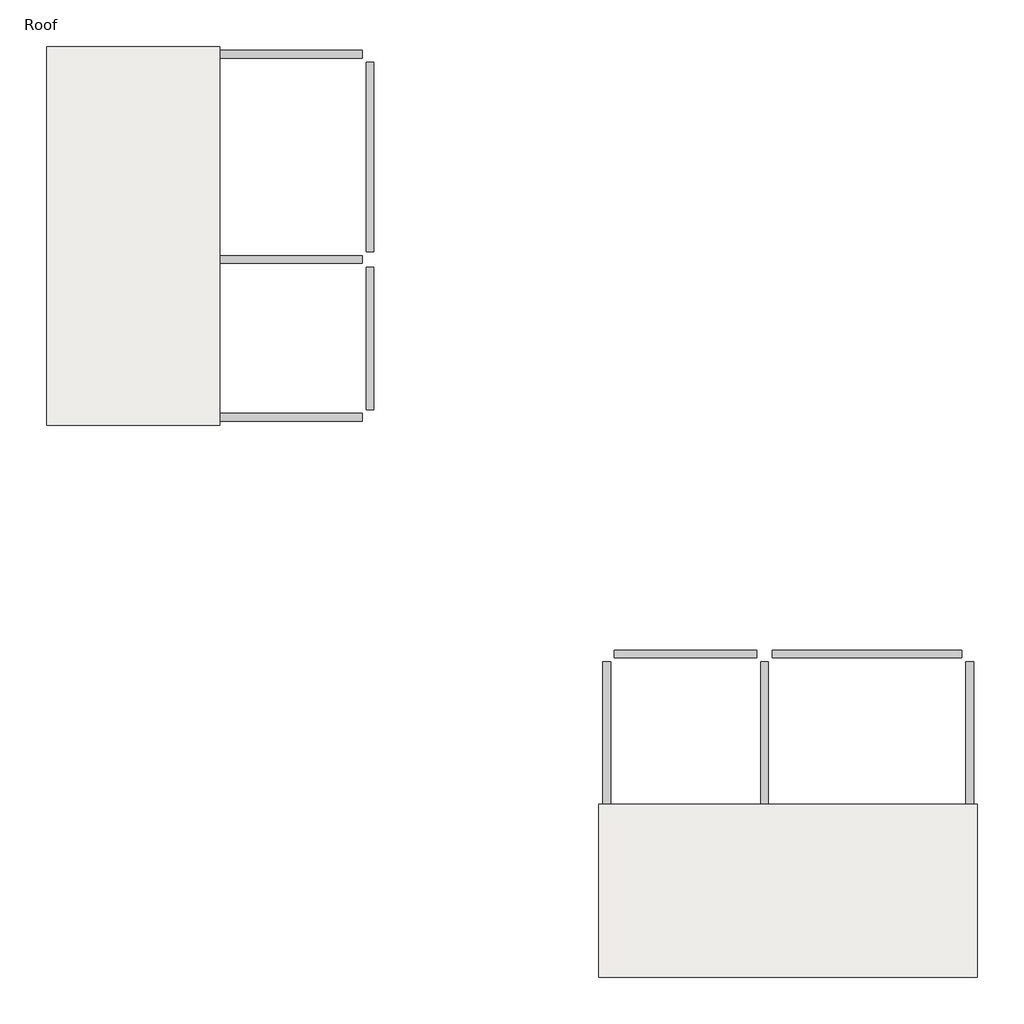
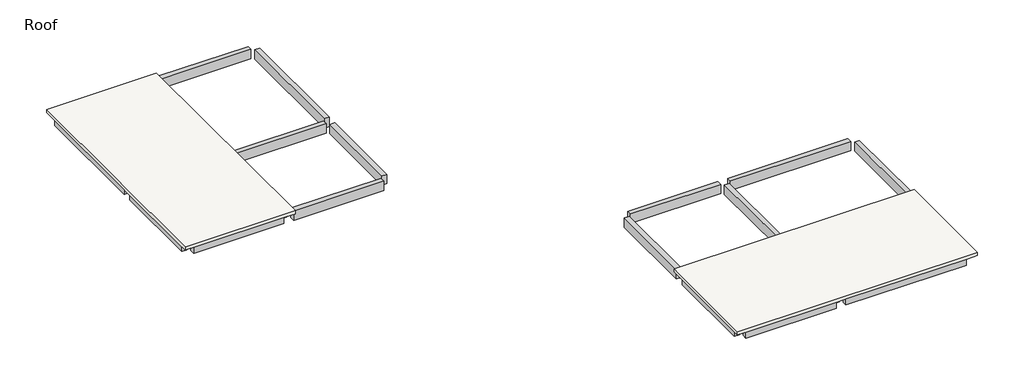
# One storey: 24 beams, 2 slabs.
"""IFC4 building model written with IfcOpenShell, lengths in millimetres."""

import ifcopenshell
import ifcopenshell.guid

model = None  # the IFC model being written
_history = None  # IfcOwnerHistory: only IFC2X3 demands one
_inside = {}  # id of a spatial element -> (the spatial element, [elements in it])
_under = {}  # id of a project, library or spatial element -> (it, [spatial elements below it])
_declared = {}  # id of a project -> (the project, [libraries it declares])
_typed = {}  # id of a type object -> (the type object, [elements of that type])
_made_of = {}  # id of a material, layer set ... -> (it, [elements and type objects made of it])


def new_model(schema):
    """Start an empty IFC model of exactly this schema.

    Asked for "IFC4X3", IfcOpenShell would pick the latest addendum, in which some entities
    have other attributes; the version numbers below select the first issue.
    IFC2X3 requires an IfcOwnerHistory on every rooted entity: one is made here for all.
    """
    global model, _history
    if schema == "IFC4X3":
        model = ifcopenshell.file(schema_version=(4, 3, 0, 0))
    else:
        model = ifcopenshell.file(schema=schema)
    _inside.clear()
    _under.clear()
    _declared.clear()
    _typed.clear()
    _made_of.clear()
    _history = None
    if model.schema == "IFC2X3":
        org = make("IfcOrganization", Name="unknown")
        user = make(
            "IfcPersonAndOrganization",
            ThePerson=make("IfcPerson", FamilyName="unknown"),
            TheOrganization=org,
        )
        app = make(
            "IfcApplication",
            ApplicationDeveloper=org,
            Version="unknown",
            ApplicationFullName="unknown",
            ApplicationIdentifier="unknown",
        )
        _history = make(
            "IfcOwnerHistory",
            OwningUser=user,
            OwningApplication=app,
            ChangeAction="ADDED",
            CreationDate=0,
        )
    return model


def make(cls, **values):
    """One entity of the class cls with the attributes given. An attribute that is None is left unset."""
    return model.create_entity(
        cls, **{name: value for name, value in values.items() if value is not None}
    )


def rooted(cls, **values):
    """An entity with a GlobalId (a new one), such as an element, a storey or a relation."""
    return make(cls, GlobalId=ifcopenshell.guid.new(), OwnerHistory=_history, **values)


def si_unit(unit_type, name, prefix=None):
    """IfcSIUnit, for example si_unit("LENGTHUNIT", "METRE", prefix="MILLI")."""
    return make("IfcSIUnit", UnitType=unit_type, Prefix=prefix, Name=name)


def assignment(units):
    """IfcUnitAssignment: the units of a project."""
    return None if units is None else make("IfcUnitAssignment", Units=units)


def point(xyz):
    """IfcCartesianPoint."""
    return None if xyz is None else make("IfcCartesianPoint", Coordinates=xyz)


def direction(xyz):
    """IfcDirection."""
    return None if xyz is None else make("IfcDirection", DirectionRatios=xyz)


def frame(location, z_axis=None, x_axis=None):
    """IfcAxis2Placement3D, a coordinate frame: its origin and axes. An axis left out is left unset."""
    return make(
        "IfcAxis2Placement3D",
        Location=point(location),
        Axis=direction(z_axis),
        RefDirection=direction(x_axis),
    )


def origin():
    """The frame at (0, 0, 0) with its axes left unset."""
    return frame((0.0, 0.0, 0.0))


def place(relative_to, where):
    """IfcLocalPlacement: puts the frame where relative to a parent placement (None: the world)."""
    return make(
        "IfcLocalPlacement", PlacementRelTo=relative_to, RelativePlacement=where
    )


def context(
    kind, dimensions, precision=None, world=None, true_north=None, identifier=None
):
    """IfcGeometricRepresentationContext, for example the 3D "Model" context."""
    return make(
        "IfcGeometricRepresentationContext",
        ContextIdentifier=identifier,
        ContextType=kind,
        CoordinateSpaceDimension=dimensions,
        Precision=precision,
        WorldCoordinateSystem=world,
        TrueNorth=true_north,
    )


def project(units=None, contexts=None):
    """IfcProject with its units and contexts."""
    return rooted(
        "IfcProject",
        Name="project",
        RepresentationContexts=contexts,
        UnitsInContext=assignment(units),
    )


def spatial(cls, under=None, at=None, **own):
    """A site, building, storey or space (cls), placed at a placement, below another one or the project."""
    s = rooted(cls, ObjectPlacement=at, **own)
    if under is not None:
        _under.setdefault(under.id(), (under, []))[1].append(s)
    return s


def polyline(points):
    """IfcPolyline through the points."""
    return make("IfcPolyline", Points=[point(p) for p in points])


def outline(outer, holes=None, kind="AREA"):
    """IfcArbitraryClosedProfileDef: a profile drawn as a closed curve; with holes, ...WithVoids."""
    if holes is None:
        return make("IfcArbitraryClosedProfileDef", ProfileType=kind, OuterCurve=outer)
    return make(
        "IfcArbitraryProfileDefWithVoids",
        ProfileType=kind,
        OuterCurve=outer,
        InnerCurves=holes,
    )


def extrude(swept, where, along, depth):
    """IfcExtrudedAreaSolid: the profile swept, set in the frame where, extruded along a direction by depth."""
    return make(
        "IfcExtrudedAreaSolid",
        SweptArea=swept,
        Position=where,
        ExtrudedDirection=direction(along),
        Depth=depth,
    )


def faces_of(points, faces, orient=None, outer=None):
    """IfcFace entities. A face is a list of loops; a loop is a list of indices into points, from 0.

    orient and outer hold one flag for each loop. By default every Orientation is true, the
    first loop of a face is its IfcFaceOuterBound and the others are IfcFaceBound.
    """
    made = []
    for i, loops in enumerate(faces):
        bounds = []
        for j, loop in enumerate(loops):
            is_outer = j == 0 if outer is None else outer[i][j]
            bounds.append(
                make(
                    "IfcFaceOuterBound" if is_outer else "IfcFaceBound",
                    Bound=make("IfcPolyLoop", Polygon=[points[k] for k in loop]),
                    Orientation=True if orient is None else orient[i][j],
                )
            )
        made.append(make("IfcFace", Bounds=bounds))
    return made


def faceted_brep(points, faces, orient=None, outer=None, voids=None):
    """IfcFacetedBrep: a solid bounded by flat faces; with voids (closed shells), ...WithVoids."""
    shared = [point(p) for p in points]
    hull = make("IfcClosedShell", CfsFaces=faces_of(shared, faces, orient, outer))
    if voids is None:
        return make("IfcFacetedBrep", Outer=hull)
    return make(
        "IfcFacetedBrepWithVoids",
        Outer=hull,
        Voids=[
            make(cls, CfsFaces=faces_of(shared, fs, o, b)) for cls, fs, o, b in voids
        ],
    )


def shape(context_of_items, identifier, shape_type, items):
    """IfcShapeRepresentation: the items that make up one representation, for example the "Body"."""
    return make(
        "IfcShapeRepresentation",
        ContextOfItems=context_of_items,
        RepresentationIdentifier=identifier,
        RepresentationType=shape_type,
        Items=items,
    )


def made_of(thing, what):
    """Note that an element or type object is made of a material, layer set ...; save() writes the relation."""
    if what is not None:
        _made_of.setdefault(what.id(), (what, []))[1].append(thing)
    return thing


def element(
    cls,
    number,
    at=None,
    inside=None,
    cuts=None,
    type_object=None,
    material=None,
    context=None,
    identifier="Body",
    shape_type=None,
    held_by="IfcProductDefinitionShape",
    body=None,
    shapes=None,
    **own,
):
    """One element of the class cls, such as IfcWall. Its Tag is "e" and its number.

    at: its placement. inside: the storey or other place that contains it. cuts: it is an
    opening in that element (IfcRelVoidsElement). A single representation is given by context,
    identifier, shape_type and body (its items); several are given by shapes. held_by: the class
    of the entity that holds the representations. save() writes the other relations.
    """
    e = rooted(cls, Tag="e%d" % number, ObjectPlacement=at, **own)
    if body is not None:
        shapes = [shape(context, identifier, shape_type, body)]
    if shapes is not None:
        e.Representation = make(held_by, Representations=shapes)
    if inside is not None:
        _inside.setdefault(inside.id(), (inside, []))[1].append(e)
    if cuts is not None:
        rooted(
            "IfcRelVoidsElement", RelatingBuildingElement=cuts, RelatedOpeningElement=e
        )
    if type_object is not None:
        _typed.setdefault(type_object.id(), (type_object, []))[1].append(e)
    return made_of(e, material)


def aggregate(whole, parts):
    """IfcRelAggregates: a whole, such as a stair, and the parts it consists of."""
    return rooted("IfcRelAggregates", RelatingObject=whole, RelatedObjects=parts)


def save(model, path):
    """Write the relations noted so far, then the file.

    IfcRelAggregates (storeys below a building ...), IfcRelContainedInSpatialStructure (elements
    in a storey), IfcRelDefinesByType, IfcRelAssociatesMaterial and IfcRelDeclares: one each for
    every whole, place, type object, material and project.
    """
    for whole, parts in _under.values():
        aggregate(whole, parts)
    for where, things in _inside.values():
        rooted(
            "IfcRelContainedInSpatialStructure",
            RelatedElements=things,
            RelatingStructure=where,
        )
    for kind, things in _typed.values():
        rooted("IfcRelDefinesByType", RelatedObjects=things, RelatingType=kind)
    for what, things in _made_of.values():
        rooted("IfcRelAssociatesMaterial", RelatedObjects=things, RelatingMaterial=what)
    for by, libraries in _declared.values():
        rooted("IfcRelDeclares", RelatingContext=by, RelatedDefinitions=libraries)
    model.write(path)


model = new_model("IFC4")

# Units and contexts
model_context = context("Model", 3, world=origin())
ifc_project = project(units=[si_unit("LENGTHUNIT", "METRE", prefix="MILLI")], contexts=[model_context])

# Site, building, storey
site = spatial("IfcSite", under=ifc_project)
building = spatial("IfcBuilding", under=site)
storey = spatial("IfcBuildingStorey", under=building, Name="Roof", Elevation=7315.2)

# Beams
placement = place(None, origin())
element("IfcBeam", 1, ObjectType="M_Concrete-Rectangular Beam : 300 x 600mm", at=placement, inside=storey, context=model_context, shape_type="SweptSolid", body=[
    extrude(outline(polyline([(-14241.0467956, 11398.6404637), (-14241.0467956, 11098.6404637), (-19737.0467956, 11098.6404637), (-19737.0467956, 11398.6404637), (-14241.0467956, 11398.6404637)])), frame((0.0, 0.0, 6715.2), z_axis=(0.0, 0.0, 1.0), x_axis=(1.0, 0.0, 0.0)), (0.0, 0.0, 1.0), 600.0),
])
element("IfcBeam", 2, ObjectType="M_Concrete-Rectangular Beam : 300 x 600mm", at=placement, inside=storey, context=model_context, shape_type="SweptSolid", body=[
    extrude(outline(polyline([(-20337.0467956, 11398.6404637), (-20337.0467956, 11098.6404637), (-25833.0467956, 11098.6404637), (-25833.0467956, 11398.6404637), (-20337.0467956, 11398.6404637)])), frame((0.0, 0.0, 6715.2), z_axis=(0.0, 0.0, 1.0), x_axis=(1.0, 0.0, 0.0)), (0.0, 0.0, 1.0), 510.0),
])
element("IfcBeam", 3, ObjectType="M_Concrete-Rectangular Beam : 300 x 600mm", at=placement, inside=storey, context=model_context, shape_type="SweptSolid", body=[
    extrude(outline(polyline([(-14241.0467956, 3473.6404637), (-14241.0467956, 3173.6404637), (-19737.0467956, 3173.6404637), (-19737.0467956, 3473.6404637), (-14241.0467956, 3473.6404637)])), frame((0.0, 0.0, 6715.2), z_axis=(0.0, 0.0, 1.0), x_axis=(1.0, 0.0, 0.0)), (0.0, 0.0, 1.0), 600.0),
])
element("IfcBeam", 4, ObjectType="M_Concrete-Rectangular Beam : 300 x 600mm", at=placement, inside=storey, context=model_context, shape_type="SweptSolid", body=[
    extrude(outline(polyline([(-20337.0467956, 3473.6404637), (-20337.0467956, 3173.6404637), (-25833.0467956, 3173.6404637), (-25833.0467956, 3473.6404637), (-20337.0467956, 3473.6404637)])), frame((0.0, 0.0, 6715.2), z_axis=(0.0, 0.0, 1.0), x_axis=(1.0, 0.0, 0.0)), (0.0, 0.0, 1.0), 510.0),
])
element("IfcBeam", 5, ObjectType="M_Concrete-Rectangular Beam : 300 x 600mm", at=placement, inside=storey, context=model_context, shape_type="SweptSolid", body=[
    extrude(outline(polyline([(-14241.0467956, -2622.3595363), (-14241.0467956, -2922.3595363), (-19737.0467956, -2922.3595363), (-19737.0467956, -2622.3595363), (-14241.0467956, -2622.3595363)])), frame((0.0, 0.0, 6715.2), z_axis=(0.0, 0.0, 1.0), x_axis=(1.0, 0.0, 0.0)), (0.0, 0.0, 1.0), 600.0),
])
element("IfcBeam", 6, ObjectType="M_Concrete-Rectangular Beam : 300 x 600mm", at=placement, inside=storey, context=model_context, shape_type="SweptSolid", body=[
    extrude(outline(polyline([(-20337.0467956, -2622.3595363), (-20337.0467956, -2922.3595363), (-25833.0467956, -2922.3595363), (-25833.0467956, -2622.3595363), (-20337.0467956, -2622.3595363)])), frame((0.0, 0.0, 6715.2), z_axis=(0.0, 0.0, 1.0), x_axis=(1.0, 0.0, 0.0)), (0.0, 0.0, 1.0), 510.0),
])
element("IfcBeam", 7, ObjectType="M_Concrete-Rectangular Beam : 300 x 600mm", at=placement, inside=storey, context=model_context, shape_type="SweptSolid", body=[
    extrude(outline(polyline([(-13791.0467956, -2472.3595363), (-14091.0467956, -2472.3595363), (-14091.0467956, 3023.6404637), (-13791.0467956, 3023.6404637), (-13791.0467956, -2472.3595363)])), frame((0.0, 0.0, 6715.2), z_axis=(0.0, 0.0, 1.0), x_axis=(1.0, 0.0, 0.0)), (0.0, 0.0, 1.0), 600.0),
])
element("IfcBeam", 8, ObjectType="M_Concrete-Rectangular Beam : 300 x 600mm", at=placement, inside=storey, context=model_context, shape_type="SweptSolid", body=[
    extrude(outline(polyline([(-13791.0467956, 3623.6404637), (-14091.0467956, 3623.6404637), (-14091.0467956, 10948.6404637), (-13791.0467956, 10948.6404637), (-13791.0467956, 3623.6404637)])), frame((0.0, 0.0, 6715.2), z_axis=(0.0, 0.0, 1.0), x_axis=(1.0, 0.0, 0.0)), (0.0, 0.0, 1.0), 600.0),
])
element("IfcBeam", 9, ObjectType="M_Concrete-Rectangular Beam : 300 x 600mm", at=placement, inside=storey, context=model_context, shape_type="SweptSolid", body=[
    extrude(outline(polyline([(-19887.0467956, -2472.3595363), (-20187.0467956, -2472.3595363), (-20187.0467956, 3023.6404637), (-19887.0467956, 3023.6404637), (-19887.0467956, -2472.3595363)])), frame((0.0, 0.0, 6715.2), z_axis=(0.0, 0.0, 1.0), x_axis=(1.0, 0.0, 0.0)), (0.0, 0.0, 1.0), 510.0),
])
element("IfcBeam", 10, ObjectType="M_Concrete-Rectangular Beam : 300 x 600mm", at=placement, inside=storey, context=model_context, shape_type="SweptSolid", body=[
    extrude(outline(polyline([(-19887.0467956, 3623.6404637), (-20187.0467956, 3623.6404637), (-20187.0467956, 10948.6404637), (-19887.0467956, 10948.6404637), (-19887.0467956, 3623.6404637)])), frame((0.0, 0.0, 6715.2), z_axis=(0.0, 0.0, 1.0), x_axis=(1.0, 0.0, 0.0)), (0.0, 0.0, 1.0), 510.0),
])
element("IfcBeam", 11, ObjectType="M_Concrete-Rectangular Beam : 300 x 600mm", at=placement, inside=storey, context=model_context, shape_type="SweptSolid", body=[
    extrude(outline(polyline([(-25983.0467956, -2472.3595363), (-26283.0467956, -2472.3595363), (-26283.0467956, 3023.6404637), (-25983.0467956, 3023.6404637), (-25983.0467956, -2472.3595363)])), frame((0.0, 0.0, 6715.2), z_axis=(0.0, 0.0, 1.0), x_axis=(1.0, 0.0, 0.0)), (0.0, 0.0, 1.0), 510.0),
])
element("IfcBeam", 12, ObjectType="M_Concrete-Rectangular Beam : 300 x 600mm", at=placement, inside=storey, context=model_context, shape_type="SweptSolid", body=[
    extrude(outline(polyline([(-25983.0467956, 3623.6404637), (-26283.0467956, 3623.6404637), (-26283.0467956, 10948.6404637), (-25983.0467956, 10948.6404637), (-25983.0467956, 3623.6404637)])), frame((0.0, 0.0, 6715.2), z_axis=(0.0, 0.0, 1.0), x_axis=(1.0, 0.0, 0.0)), (0.0, 0.0, 1.0), 510.0),
])
element("IfcBeam", 13, ObjectType="M_Concrete-Rectangular Beam : 300 x 600mm", at=placement, inside=storey, context=model_context, shape_type="SweptSolid", body=[
    extrude(outline(polyline([(9073.9532044, -12216.3595363), (9373.9532044, -12216.3595363), (9373.9532044, -17712.3595363), (9073.9532044, -17712.3595363), (9073.9532044, -12216.3595363)])), frame((0.0, 0.0, 6715.2), z_axis=(0.0, 0.0, 1.0), x_axis=(1.0, 0.0, 0.0)), (0.0, 0.0, 1.0), 600.0),
])
element("IfcBeam", 14, ObjectType="M_Concrete-Rectangular Beam : 300 x 600mm", at=placement, inside=storey, context=model_context, shape_type="SweptSolid", body=[
    extrude(outline(polyline([(9073.9532044, -18312.3595363), (9373.9532044, -18312.3595363), (9373.9532044, -23808.3595363), (9073.9532044, -23808.3595363), (9073.9532044, -18312.3595363)])), frame((0.0, 0.0, 6715.2), z_axis=(0.0, 0.0, 1.0), x_axis=(1.0, 0.0, 0.0)), (0.0, 0.0, 1.0), 510.0),
])
element("IfcBeam", 15, ObjectType="M_Concrete-Rectangular Beam : 300 x 600mm", at=placement, inside=storey, context=model_context, shape_type="SweptSolid", body=[
    extrude(outline(polyline([(1148.9532044, -12216.3595363), (1448.9532044, -12216.3595363), (1448.9532044, -17712.3595363), (1148.9532044, -17712.3595363), (1148.9532044, -12216.3595363)])), frame((0.0, 0.0, 6715.2), z_axis=(0.0, 0.0, 1.0), x_axis=(1.0, 0.0, 0.0)), (0.0, 0.0, 1.0), 600.0),
])
element("IfcBeam", 16, ObjectType="M_Concrete-Rectangular Beam : 300 x 600mm", at=placement, inside=storey, context=model_context, shape_type="SweptSolid", body=[
    extrude(outline(polyline([(1148.9532044, -18312.3595363), (1448.9532044, -18312.3595363), (1448.9532044, -23808.3595363), (1148.9532044, -23808.3595363), (1148.9532044, -18312.3595363)])), frame((0.0, 0.0, 6715.2), z_axis=(0.0, 0.0, 1.0), x_axis=(1.0, 0.0, 0.0)), (0.0, 0.0, 1.0), 510.0),
])
element("IfcBeam", 17, ObjectType="M_Concrete-Rectangular Beam : 300 x 600mm", at=placement, inside=storey, context=model_context, shape_type="SweptSolid", body=[
    extrude(outline(polyline([(-4947.0467956, -12216.3595363), (-4647.0467956, -12216.3595363), (-4647.0467956, -17712.3595363), (-4947.0467956, -17712.3595363), (-4947.0467956, -12216.3595363)])), frame((0.0, 0.0, 6715.2), z_axis=(0.0, 0.0, 1.0), x_axis=(1.0, 0.0, 0.0)), (0.0, 0.0, 1.0), 600.0),
])
element("IfcBeam", 18, ObjectType="M_Concrete-Rectangular Beam : 300 x 600mm", at=placement, inside=storey, context=model_context, shape_type="SweptSolid", body=[
    extrude(outline(polyline([(-4947.0467956, -18312.3595363), (-4647.0467956, -18312.3595363), (-4647.0467956, -23808.3595363), (-4947.0467956, -23808.3595363), (-4947.0467956, -18312.3595363)])), frame((0.0, 0.0, 6715.2), z_axis=(0.0, 0.0, 1.0), x_axis=(1.0, 0.0, 0.0)), (0.0, 0.0, 1.0), 510.0),
])
element("IfcBeam", 19, ObjectType="M_Concrete-Rectangular Beam : 300 x 600mm", at=placement, inside=storey, context=model_context, shape_type="SweptSolid", body=[
    extrude(outline(polyline([(-4497.0467956, -12066.3595363), (-4497.0467956, -11766.3595363), (998.9532044, -11766.3595363), (998.9532044, -12066.3595363), (-4497.0467956, -12066.3595363)])), frame((0.0, 0.0, 6715.2), z_axis=(0.0, 0.0, 1.0), x_axis=(1.0, 0.0, 0.0)), (0.0, 0.0, 1.0), 600.0),
])
element("IfcBeam", 20, ObjectType="M_Concrete-Rectangular Beam : 300 x 600mm", at=placement, inside=storey, context=model_context, shape_type="SweptSolid", body=[
    extrude(outline(polyline([(1598.9532044, -12066.3595363), (1598.9532044, -11766.3595363), (8923.9532044, -11766.3595363), (8923.9532044, -12066.3595363), (1598.9532044, -12066.3595363)])), frame((0.0, 0.0, 6715.2), z_axis=(0.0, 0.0, 1.0), x_axis=(1.0, 0.0, 0.0)), (0.0, 0.0, 1.0), 600.0),
])
element("IfcBeam", 21, ObjectType="M_Concrete-Rectangular Beam : 300 x 600mm", at=placement, inside=storey, context=model_context, shape_type="SweptSolid", body=[
    extrude(outline(polyline([(-4497.0467956, -18162.3595363), (-4497.0467956, -17862.3595363), (998.9532044, -17862.3595363), (998.9532044, -18162.3595363), (-4497.0467956, -18162.3595363)])), frame((0.0, 0.0, 6715.2), z_axis=(0.0, 0.0, 1.0), x_axis=(1.0, 0.0, 0.0)), (0.0, 0.0, 1.0), 510.0),
])
element("IfcBeam", 22, ObjectType="M_Concrete-Rectangular Beam : 300 x 600mm", at=placement, inside=storey, context=model_context, shape_type="SweptSolid", body=[
    extrude(outline(polyline([(1598.9532044, -18162.3595363), (1598.9532044, -17862.3595363), (8923.9532044, -17862.3595363), (8923.9532044, -18162.3595363), (1598.9532044, -18162.3595363)])), frame((0.0, 0.0, 6715.2), z_axis=(0.0, 0.0, 1.0), x_axis=(1.0, 0.0, 0.0)), (0.0, 0.0, 1.0), 510.0),
])
element("IfcBeam", 23, ObjectType="M_Concrete-Rectangular Beam : 300 x 600mm", at=placement, inside=storey, context=model_context, shape_type="SweptSolid", body=[
    extrude(outline(polyline([(-4497.0467956, -24258.3595363), (-4497.0467956, -23958.3595363), (998.9532044, -23958.3595363), (998.9532044, -24258.3595363), (-4497.0467956, -24258.3595363)])), frame((0.0, 0.0, 6715.2), z_axis=(0.0, 0.0, 1.0), x_axis=(1.0, 0.0, 0.0)), (0.0, 0.0, 1.0), 510.0),
])
element("IfcBeam", 24, ObjectType="M_Concrete-Rectangular Beam : 300 x 600mm", at=placement, inside=storey, context=model_context, shape_type="SweptSolid", body=[
    extrude(outline(polyline([(1598.9532044, -24258.3595363), (1598.9532044, -23958.3595363), (8923.9532044, -23958.3595363), (8923.9532044, -24258.3595363), (1598.9532044, -24258.3595363)])), frame((0.0, 0.0, 6715.2), z_axis=(0.0, 0.0, 1.0), x_axis=(1.0, 0.0, 0.0)), (0.0, 0.0, 1.0), 510.0),
])

# Slabs
element("IfcSlab", 25, ObjectType="160mm Concrete With 50mm Metal Deck", at=placement, inside=storey, context=model_context, shape_type="Brep", body=[
    faceted_brep([(-19737.0467956, 11548.6404637, 7225.2), (-19737.0467956, 10948.6404637, 7225.2), (-19737.0467956, 3623.6404637, 7225.2), (-19737.0467956, 3023.6404637, 7225.2), (-19737.0467956, -2472.3595363, 7225.2), (-19737.0467956, -3072.3595363, 7225.2), (-20337.0467956, -3072.3595363, 7225.2), (-25833.0467956, -3072.3595363, 7225.2), (-26433.0467956, -3072.3595363, 7225.2), (-26433.0467956, -2472.3595363, 7225.2), (-26433.0467956, 3023.6404637, 7225.2), (-26433.0467956, 3623.6404637, 7225.2), (-26433.0467956, 10948.6404637, 7225.2), (-26433.0467956, 11548.6404637, 7225.2), (-25833.0467956, 11548.6404637, 7225.2), (-20337.0467956, 11548.6404637, 7225.2), (-19737.0467956, 11548.6404637, 7435.2), (-26433.0467956, 11548.6404637, 7435.2), (-26433.0467956, -3072.3595363, 7435.2), (-19737.0467956, -3072.3595363, 7435.2)], [[[0, 1, 2, 3, 4, 5, 6, 7, 8, 9, 10, 11, 12, 13, 14, 15]], [[16, 17, 18, 19]], [[5, 4, 3, 2, 1, 0, 16, 19]], [[8, 7, 6, 5, 19, 18]], [[13, 12, 11, 10, 9, 8, 18, 17]], [[0, 15, 14, 13, 17, 16]]]),
])
element("IfcSlab", 26, ObjectType="160mm Concrete With 50mm Metal Deck", at=placement, inside=storey, context=model_context, shape_type="Brep", body=[
    faceted_brep([(9523.9532044, -17712.3595363, 7225.2), (9523.9532044, -18312.3595363, 7225.2), (9523.9532044, -23808.3595363, 7225.2), (9523.9532044, -24408.3595363, 7225.2), (8923.9532044, -24408.3595363, 7225.2), (1598.9532044, -24408.3595363, 7225.2), (998.9532044, -24408.3595363, 7225.2), (-4497.0467956, -24408.3595363, 7225.2), (-5097.0467956, -24408.3595363, 7225.2), (-5097.0467956, -23808.3595363, 7225.2), (-5097.0467956, -18312.3595363, 7225.2), (-5097.0467956, -17712.3595363, 7225.2), (-4497.0467956, -17712.3595363, 7225.2), (998.9532044, -17712.3595363, 7225.2), (1598.9532044, -17712.3595363, 7225.2), (8923.9532044, -17712.3595363, 7225.2), (9523.9532044, -17712.3595363, 7435.2), (-5097.0467956, -17712.3595363, 7435.2), (-5097.0467956, -24408.3595363, 7435.2), (9523.9532044, -24408.3595363, 7435.2)], [[[0, 1, 2, 3, 4, 5, 6, 7, 8, 9, 10, 11, 12, 13, 14, 15]], [[16, 17, 18, 19]], [[0, 15, 14, 13, 12, 11, 17, 16]], [[11, 10, 9, 8, 18, 17]], [[8, 7, 6, 5, 4, 3, 19, 18]], [[3, 2, 1, 0, 16, 19]]]),
])

save(model, "model.ifc")
